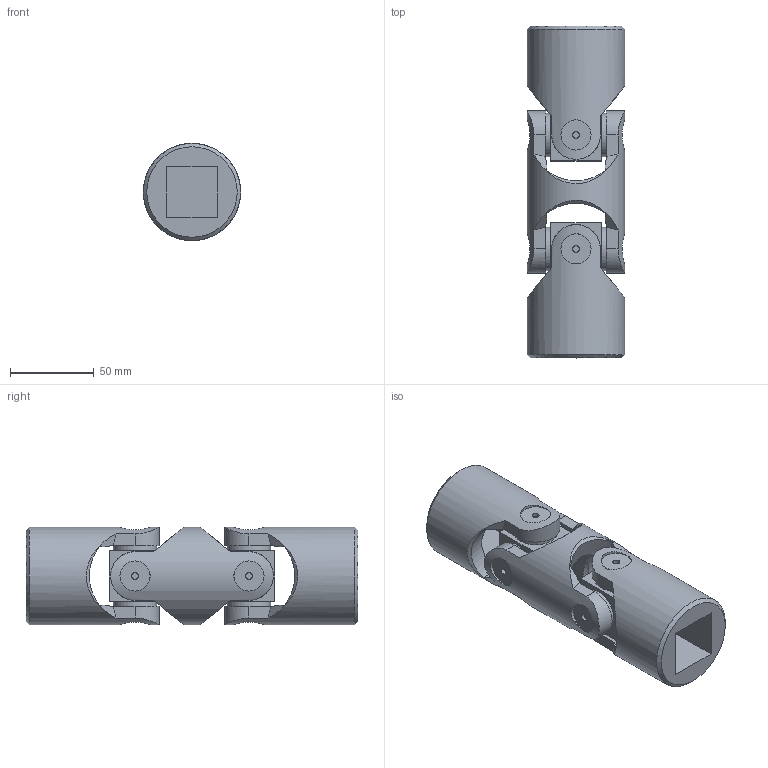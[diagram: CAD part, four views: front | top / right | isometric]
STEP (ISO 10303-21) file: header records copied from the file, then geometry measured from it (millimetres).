
FILE_DESCRIPTION(/* description */ (''),/* implementation_level */ '2;1');
FILE_NAME(/* name */ '\\SRV2016\Societa\Stefano\Disegni 3D\00Catalogo 3D\02Doppi GD-GBD\SG0D322Q.stp',/* time_stamp */ '2021-11-23T15:54:16+01:00',/* author */ ('acquisti'),/* organization */ (''),/* preprocessor_version */ 'ST-DEVELOPER v15.6',/* originating_system */ 'Autodesk Inventor 2015',/* authorisation */ '');
FILE_SCHEMA (('AUTOMOTIVE_DESIGN { 1 0 10303 214 3 1 1 }'));
Length unit declared in the file: millimetre
Products named in the file (4): 6G MOD; 6G SFE; 6G1 MOQ; Ø58_6GD1-00_SG0D3200
Assembly tree (5 placements, depth 2):
  Ø58_6GD1-00_SG0D3200
    6G MOD
    6G SFE  x2
    6G1 MOQ  x2
Bounding box: 58 x 198 x 58 mm (x, y, z)
Volume: 321897.2 mm3; surface area: 74559.6 mm2
Topology: 5 solids, 5 shells, 155 faces, 387 edges, 262 vertices
Faces by surface type: plane 78, cylinder 45, cone 28, torus 4
Full cylindrical faces by diameter (mm): 4 x8, 18 x8, 26 x8, 32 x2, 58 x3
Entity records: 3674 total; most frequent: CARTESIAN_POINT 1331, ORIENTED_EDGE 464, DIRECTION 438, EDGE_CURVE 232, AXIS2_PLACEMENT_3D 187, VERTEX_POINT 174, EDGE_LOOP 146, FACE_OUTER_BOUND 103
